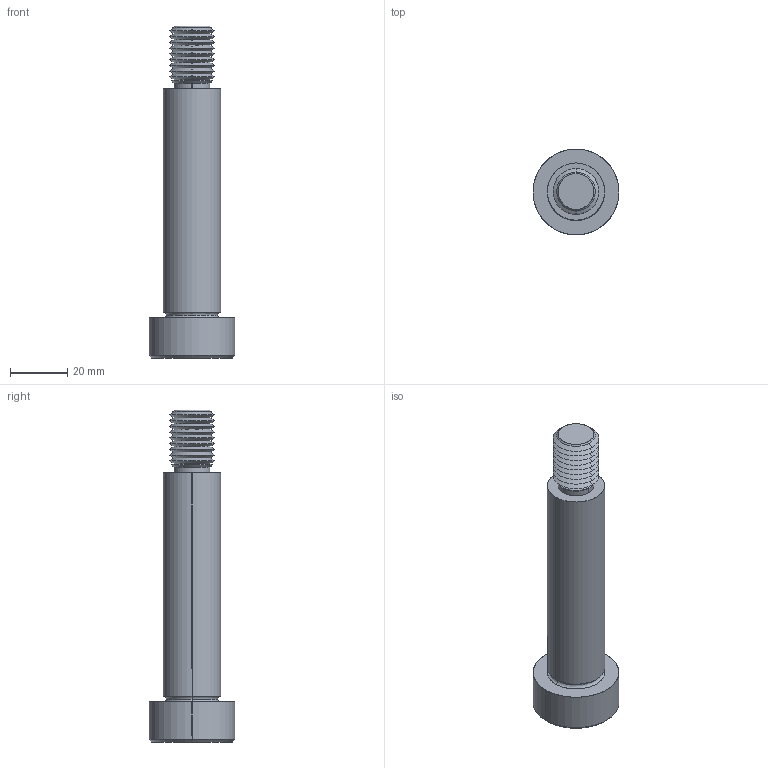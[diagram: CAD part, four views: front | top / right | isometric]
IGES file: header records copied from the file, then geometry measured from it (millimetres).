
Start section: SolidWorks IGES file using analytic representation for surfaces
Global section: file name: C:\Users\IanO\Documents\Temp Folder\GENERAL\SCREW REVISION\P0130_v2\P0130.T5_v2_20220106_IGES\P0130.200-080-T5.igs; native system: SolidWorks 2019; preprocessor: SolidWorks 2019; author: IanO; date: 220106.230257; units: millimetre
Bounding box: 30 x 30 x 116 mm (x, y, z)
Surface area: 9944.5 mm2 (no closed solid volume)
Topology: 0 solids, 0 shells, 80 faces, 692 edges, 690 vertices
Faces by surface type: revolution 60, bspline 20
